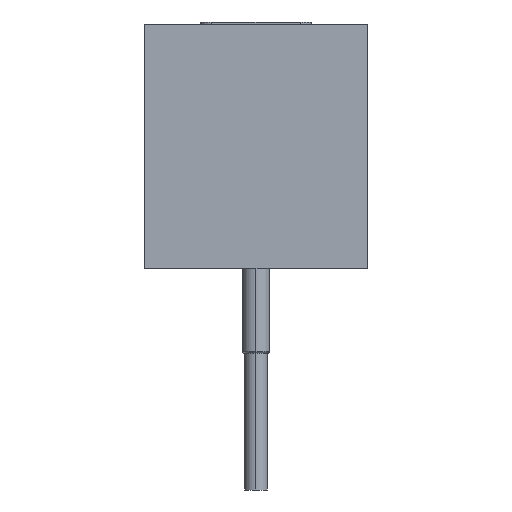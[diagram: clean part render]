
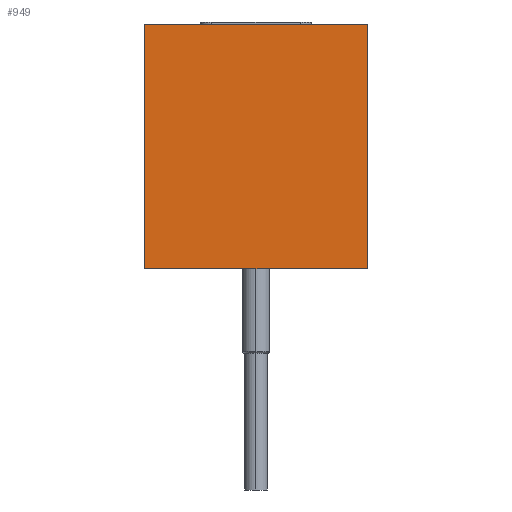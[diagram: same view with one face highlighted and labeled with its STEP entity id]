
A CAD part, left-side view. The second image highlights one B-rep face of the part: STEP entity #949.
In plain terms, the highlighted planar face has unit normal (-1, 0, 0).
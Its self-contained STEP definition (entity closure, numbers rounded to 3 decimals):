
#884 = VERTEX_POINT('',#885);
#885 = CARTESIAN_POINT('',(0.,0.,0.));
#891 = EDGE_CURVE('',#892,#884,#894,.T.);
#892 = VERTEX_POINT('',#893);
#893 = CARTESIAN_POINT('',(0.,0.,-44.));
#894 = LINE('',#895,#896);
#895 = CARTESIAN_POINT('',(0.,0.,-44.));
#896 = VECTOR('',#897,1.);
#897 = DIRECTION('',(0.,0.,1.));
#949 = ADVANCED_FACE('',(#950),#975,.T.);
#950 = FACE_BOUND('',#951,.T.);
#951 = EDGE_LOOP('',(#952,#960,#968,#974));
#952 = ORIENTED_EDGE('',*,*,#953,.F.);
#953 = EDGE_CURVE('',#954,#884,#956,.T.);
#954 = VERTEX_POINT('',#955);
#955 = CARTESIAN_POINT('',(0.,40.,0.));
#956 = LINE('',#957,#958);
#957 = CARTESIAN_POINT('',(0.,0.,0.));
#958 = VECTOR('',#959,1.);
#959 = DIRECTION('',(-0.,-1.,-0.));
#960 = ORIENTED_EDGE('',*,*,#961,.F.);
#961 = EDGE_CURVE('',#962,#954,#964,.T.);
#962 = VERTEX_POINT('',#963);
#963 = CARTESIAN_POINT('',(0.,40.,-44.));
#964 = LINE('',#965,#966);
#965 = CARTESIAN_POINT('',(0.,40.,-44.));
#966 = VECTOR('',#967,1.);
#967 = DIRECTION('',(0.,0.,1.));
#968 = ORIENTED_EDGE('',*,*,#969,.T.);
#969 = EDGE_CURVE('',#962,#892,#970,.T.);
#970 = LINE('',#971,#972);
#971 = CARTESIAN_POINT('',(0.,0.,-44.));
#972 = VECTOR('',#973,1.);
#973 = DIRECTION('',(-0.,-1.,-0.));
#974 = ORIENTED_EDGE('',*,*,#891,.T.);
#975 = PLANE('',#976);
#976 = AXIS2_PLACEMENT_3D('',#977,#978,#979);
#977 = CARTESIAN_POINT('',(0.,0.,-44.));
#978 = DIRECTION('',(-1.,0.,0.));
#979 = DIRECTION('',(0.,0.,1.));
